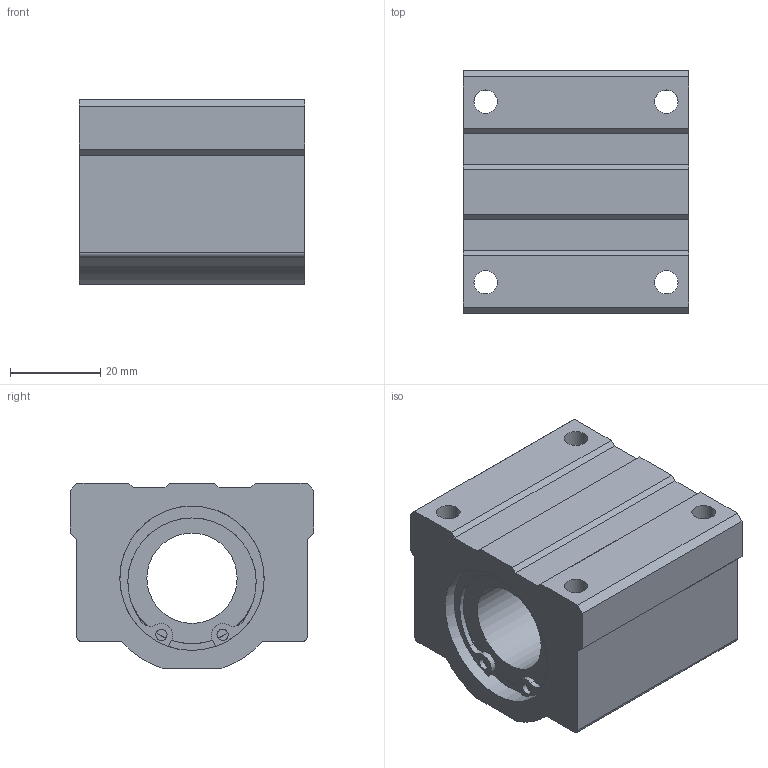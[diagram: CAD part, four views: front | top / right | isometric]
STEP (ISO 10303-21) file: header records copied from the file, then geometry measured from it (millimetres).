
FILE_DESCRIPTION((''),'2;1');
FILE_NAME('D:\製品 (図面)\カタログ用3D\リニアベアリング関連(改)\STEP形式\LH-B\LH20B.stp','2010-01-25T10:20:09',('Tsuchiya'),(''),'Autodesk Inventor 10','Autodesk Inventor 10','');
FILE_SCHEMA(('AUTOMOTIVE_DESIGN { 1 0 10303 214 1 1 1 1 }'));
Length unit declared in the file: millimetre
Products named in the file (1): LH20B
Bounding box: 50 x 54 x 41 mm (x, y, z)
Volume: 74728.7 mm3; surface area: 18992.2 mm2
Topology: 1 solids, 3 shells, 81 faces, 215 edges, 138 vertices
Faces by surface type: plane 44, cylinder 20, bspline 17
Full cylindrical faces by diameter (mm): 2.5 x2, 20 x1, 29 x2, 30.3 x2, 32 x4
Entity records: 2548 total; most frequent: CARTESIAN_POINT 599, DIRECTION 410, ORIENTED_EDGE 372, EDGE_CURVE 186, AXIS2_PLACEMENT_3D 159, VERTEX_POINT 126, EDGE_LOOP 118, CIRCLE 94
